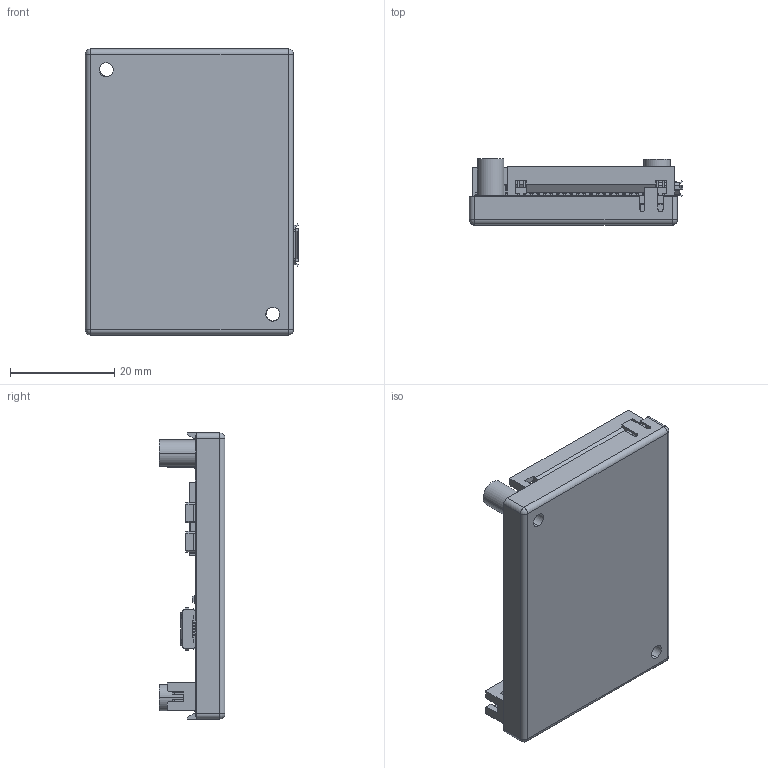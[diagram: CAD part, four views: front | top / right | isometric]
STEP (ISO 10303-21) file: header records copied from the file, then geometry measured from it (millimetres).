
FILE_DESCRIPTION((''),'2;1');
FILE_NAME('EPOS4_MODULE_ASM','2016-11-09T',('mmagrari'),(''),'CREO PARAMETRIC BY PTC INC, 2016050','CREO PARAMETRIC BY PTC INC, 2016050','');
FILE_SCHEMA(('CONFIG_CONTROL_DESIGN'));
Products named in the file (23): EPOS4_MODULE_PCB; EPOS4_MODULE_PCB_SITO; EPOS4_MODULE_PCB_SIBO; IC_TQFP100-14X14; IC_7X7X1; IC_PDSO_G56; USB_MICRO; DROSSEL_4X4X1-8; LED-0606_DUAL_SOCKEL; LED-0606-DUAL_GRUEN; LED-0606-DUAL_ROT; LED-0606-DUAL_ASM; POWERPAK_1212; USER_LIBRARY-CAP_1210; DROSSEL_5X5X2-8; IC_SO-08; SSOP4; MFP-4; STEELSPACER_7; COVER_36_2; 11100__SBH31-NBPB-D23-SP-____AS; IC_TSSOP-16; EPOS4_MODULE_ASM
Assembly tree (41 placements, depth 3):
  EPOS4_MODULE_ASM
    EPOS4_MODULE_PCB
    EPOS4_MODULE_PCB_SITO
    EPOS4_MODULE_PCB_SIBO
    IC_TQFP100-14X14
    IC_7X7X1
    IC_PDSO_G56
    USB_MICRO
    DROSSEL_4X4X1-8  x2
    LED-0606-DUAL_ASM  x2
      LED-0606_DUAL_SOCKEL
      LED-0606-DUAL_GRUEN
      LED-0606-DUAL_ROT
    POWERPAK_1212  x6
    USER_LIBRARY-CAP_1210  x10
    DROSSEL_5X5X2-8
    IC_SO-08
    SSOP4  x2
    MFP-4
    STEELSPACER_7  x2
    COVER_36_2
    11100__SBH31-NBPB-D23-SP-____AS  x2
    IC_TSSOP-16
Bounding box: 41 x 12.65 x 55 mm (x, y, z)
Volume: 8444.6 mm3; surface area: 24050.5 mm2
Topology: 68 solids, 68 shells, 6764 faces, 17878 edges, 11271 vertices
Faces by surface type: plane 5738, cylinder 926, sphere 88, torus 12
Entity records: 190770 total; most frequent: CARTESIAN_POINT 26517, ORIENTED_EDGE 26314, DIRECTION 24171, PRESENTATION_STYLE_ASSIGNMENT 13197, EDGE_CURVE 13157, STYLED_ITEM 13152, CURVE_STYLE 13085, VECTOR 11865
